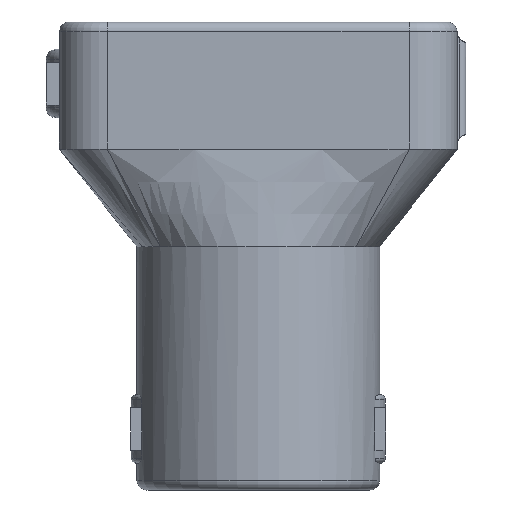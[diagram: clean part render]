
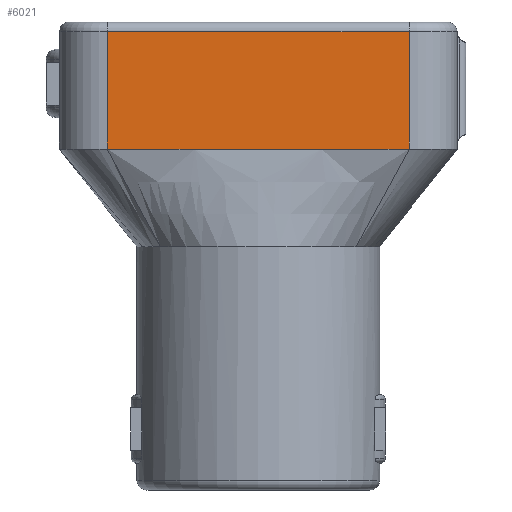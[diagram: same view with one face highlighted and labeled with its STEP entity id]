
A CAD part, front view. The second image highlights one B-rep face of the part: STEP entity #6021.
In plain terms, the highlighted planar face has unit normal (0, -1, 0).
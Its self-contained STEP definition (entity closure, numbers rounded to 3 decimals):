
#1957=DIRECTION('',(0.,0.,-1.));
#1958=VECTOR('',#1957,12.);
#1959=CARTESIAN_POINT('',(15.45,-11.35,-1.));
#1960=LINE('',#1959,#1958);
#1961=DIRECTION('',(1.,0.,0.));
#1962=VECTOR('',#1961,30.9);
#1963=CARTESIAN_POINT('',(-15.45,-11.35,-1.));
#1964=LINE('',#1963,#1962);
#1965=DIRECTION('',(-1.,0.,0.));
#1966=VECTOR('',#1965,8.993);
#1967=CARTESIAN_POINT('',(15.45,-11.35,-13.));
#1968=LINE('',#1967,#1966);
#1969=DIRECTION('',(-1.,0.,0.));
#1970=VECTOR('',#1969,12.915);
#1971=CARTESIAN_POINT('',(6.457,-11.35,-13.));
#1972=LINE('',#1971,#1970);
#1973=DIRECTION('',(-1.,0.,0.));
#1974=VECTOR('',#1973,8.993);
#1975=CARTESIAN_POINT('',(-6.457,-11.35,-13.));
#1976=LINE('',#1975,#1974);
#1977=DIRECTION('',(0.,0.,-1.));
#1978=VECTOR('',#1977,12.);
#1979=CARTESIAN_POINT('',(-15.45,-11.35,-1.));
#1980=LINE('',#1979,#1978);
#2253=CARTESIAN_POINT('',(15.45,-11.35,-13.));
#2254=VERTEX_POINT('',#2253);
#2255=CARTESIAN_POINT('',(6.457,-11.35,-13.));
#2256=VERTEX_POINT('',#2255);
#2257=CARTESIAN_POINT('',(-15.45,-11.35,-13.));
#2259=VERTEX_POINT('',#2257);
#2603=CARTESIAN_POINT('',(15.45,-11.35,-1.));
#2605=VERTEX_POINT('',#2603);
#2609=CARTESIAN_POINT('',(-15.45,-11.35,-1.));
#2610=VERTEX_POINT('',#2609);
#2655=CARTESIAN_POINT('',(-6.457,-11.35,-13.));
#2656=VERTEX_POINT('',#2655);
#6007=CARTESIAN_POINT('',(-15.45,-11.35,0.));
#6008=DIRECTION('',(0.,-1.,0.));
#6009=DIRECTION('',(1.,0.,0.));
#6010=AXIS2_PLACEMENT_3D('',#6007,#6008,#6009);
#6011=PLANE('',#6010);
#6012=ORIENTED_EDGE('',*,*,#3474,.T.);
#6013=ORIENTED_EDGE('',*,*,#6002,.T.);
#6014=ORIENTED_EDGE('',*,*,#4179,.T.);
#6015=ORIENTED_EDGE('',*,*,#4177,.T.);
#6016=ORIENTED_EDGE('',*,*,#4175,.T.);
#6018=ORIENTED_EDGE('',*,*,#6017,.F.);
#6019=EDGE_LOOP('',(#6012,#6013,#6014,#6015,#6016,#6018));
#6020=FACE_OUTER_BOUND('',#6019,.F.);
#3474=EDGE_CURVE('',#2610,#2605,#1964,.T.);
#4175=EDGE_CURVE('',#2656,#2259,#1976,.T.);
#4177=EDGE_CURVE('',#2256,#2656,#1972,.T.);
#4179=EDGE_CURVE('',#2254,#2256,#1968,.T.);
#6002=EDGE_CURVE('',#2605,#2254,#1960,.T.);
#6017=EDGE_CURVE('',#2610,#2259,#1980,.T.);
#6021=ADVANCED_FACE('',(#6020),#6011,.T.);
